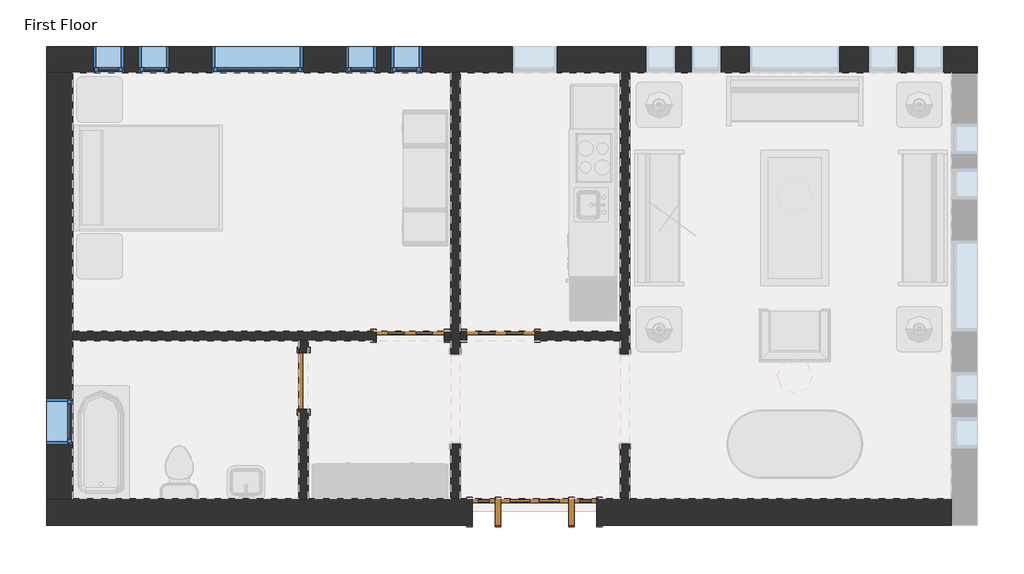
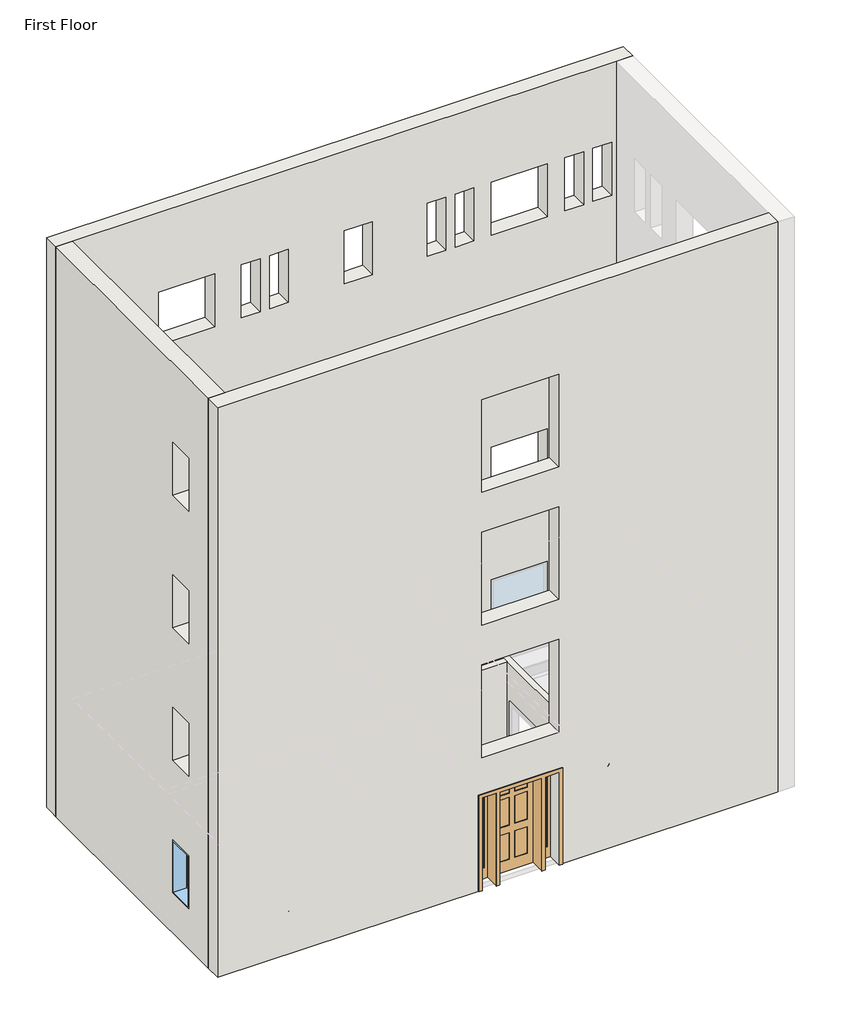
# One storey, part 1 of 2: 8 walls, 6 windows, 4 doors.
"""IFC4 building model written with IfcOpenShell, lengths in millimetres."""

from ifc_helpers import new_model, si_unit, frame, origin, place, context, project, spatial, polyline, outline, extrude, faceted_brep, transform, mapped, element, save
from components import door_829da954, door_2e3b4da2, door_4d6c7550, door_dba5aa2e, window_da97879f, window_d61ef850, window_60baf983, window_6eb97611

model = new_model("IFC4")

# Units and contexts
model_context = context("Model", 3, world=origin())
ifc_project = project(units=[si_unit("LENGTHUNIT", "METRE", prefix="MILLI")], contexts=[model_context])

# Site, building, storey
site = spatial("IfcSite", under=ifc_project)
building = spatial("IfcBuilding", under=site)
storey = spatial("IfcBuildingStorey", under=building, Name="First Floor", Elevation=0.0)

# Doors
placement = place(None, origin())
door_shape = door_829da954(model_context)
element("IfcDoor", 1, ObjectType="Single-Decorative 2 : 36\" x 84\"", at=placement, inside=storey, context=model_context, shape_type="MappedRepresentation", body=[
    mapped(door_shape, transform((-5449.8589563, 6723.5441867, 0.0), x_axis=(-1.0, 0.0, 0.0), y_axis=(0.0, -1.0, 0.0), z_axis=(0.0, 0.0, 1.0))),
])
door_2_shape = door_2e3b4da2(model_context)
element("IfcDoor", 2, ObjectType="Single-Decorative 2 : 36\" x 84\"", at=placement, inside=storey, context=model_context, shape_type="MappedRepresentation", body=[
    mapped(door_2_shape, transform((-6669.0589563, 6723.5441867, 0.0), x_axis=(1.0, 0.0, 0.0), y_axis=(0.0, 1.0, 0.0), z_axis=(0.0, 0.0, 1.0))),
])
door_3_shape = door_4d6c7550(model_context)
element("IfcDoor", 3, ObjectType="Single-Flush : 30\" x 84\"", at=placement, inside=storey, context=model_context, shape_type="MappedRepresentation", body=[
    mapped(door_3_shape, transform((-8105.7464563, 6113.9441867, 0.0), x_axis=(0.0, 1.0, 0.0), y_axis=(-1.0, 0.0, 0.0), z_axis=(0.0, 0.0, 1.0))),
])
door_4_shape = door_dba5aa2e(model_context)
element("IfcDoor", 4, ObjectType="Single-Raised Panel with Sidelights : 36\" x 84\"", at=placement, inside=storey, context=model_context, shape_type="MappedRepresentation", body=[
    mapped(door_4_shape, transform((-4992.6589563, 4350.2316867, 0.0), x_axis=(-1.0, 0.0, 0.0), y_axis=(0.0, -1.0, 0.0), z_axis=(0.0, 0.0, 1.0))),
])

# Walls
element("IfcWall", 5, ObjectType="Exterior - Brick on Mtl. Stud", at=placement, inside=storey, context=model_context, shape_type="Brep", body=[
    faceted_brep([(-11569.6714563, 10270.0191867, 13106.4), (-11217.2464563, 10270.0191867, 13106.4), (622.3285437, 10270.0191867, 13106.4), (974.7535437, 10270.0191867, 13106.4), (974.7535437, 10622.4441867, 13106.4), (-11569.6714563, 10622.4441867, 13106.4), (-11569.6714563, 10270.0191867, 0.0), (-11382.3464563, 10270.0191867, 0.0), (-11217.2464563, 10270.0191867, 0.0), (-6122.9589563, 10270.0191867, 0.0), (-5995.9589563, 10270.0191867, 0.0), (-3836.9589563, 10270.0191867, 0.0), (-3709.9589563, 10270.0191867, 0.0), (622.3285437, 10270.0191867, 0.0), (787.4285437, 10270.0191867, 0.0), (974.7535437, 10270.0191867, 0.0), (-90.4589563, 10270.0191867, 8229.6), (-90.4589563, 10270.0191867, 7010.4), (-496.8589563, 10270.0191867, 7010.4), (-496.8589563, 10270.0191867, 8229.6), (519.1410437, 10270.0191867, 8229.6), (519.1410437, 10270.0191867, 7010.4), (112.7410437, 10270.0191867, 7010.4), (112.7410437, 10270.0191867, 8229.6), (-2884.4589563, 10270.0191867, 8229.6), (-2478.0589563, 10270.0191867, 8229.6), (-2478.0589563, 10270.0191867, 7010.4), (-2884.4589563, 10270.0191867, 7010.4), (-3494.0589563, 10270.0191867, 8229.6), (-3087.6589563, 10270.0191867, 8229.6), (-3087.6589563, 10270.0191867, 7010.4), (-3494.0589563, 10270.0191867, 7010.4), (-7126.2589563, 10270.0191867, 8229.6), (-7126.2589563, 10270.0191867, 7010.4), (-7532.6589563, 10270.0191867, 7010.4), (-7532.6589563, 10270.0191867, 8229.6), (-6516.6589563, 10270.0191867, 8229.6), (-6516.6589563, 10270.0191867, 7010.4), (-6923.0589563, 10270.0191867, 7010.4), (-6923.0589563, 10270.0191867, 8229.6), (-10326.6589563, 10270.0191867, 8229.6), (-9920.2589563, 10270.0191867, 8229.6), (-9920.2589563, 10270.0191867, 7010.4), (-10326.6589563, 10270.0191867, 7010.4), (-10936.2589563, 10270.0191867, 8229.6), (-10529.8589563, 10270.0191867, 8229.6), (-10529.8589563, 10270.0191867, 7010.4), (-10936.2589563, 10270.0191867, 7010.4), (-2097.0589563, 10270.0191867, 8229.6), (-877.8589563, 10270.0191867, 8229.6), (-877.8589563, 10270.0191867, 7010.4), (-2097.0589563, 10270.0191867, 7010.4), (-9336.0589563, 10270.0191867, 8229.6), (-8116.8589563, 10270.0191867, 8229.6), (-8116.8589563, 10270.0191867, 7010.4), (-9336.0589563, 10270.0191867, 7010.4), (-5297.4589563, 10270.0191867, 8229.6), (-4687.8589563, 10270.0191867, 8229.6), (-4687.8589563, 10270.0191867, 7010.4), (-5297.4589563, 10270.0191867, 7010.4), (-90.4589563, 10270.0191867, 5181.6), (-90.4589563, 10270.0191867, 3962.4), (-496.8589563, 10270.0191867, 3962.4), (-496.8589563, 10270.0191867, 5181.6), (519.1410437, 10270.0191867, 5181.6), (519.1410437, 10270.0191867, 3962.4), (112.7410437, 10270.0191867, 3962.4), (112.7410437, 10270.0191867, 5181.6), (-2884.4589563, 10270.0191867, 5181.6), (-2478.0589563, 10270.0191867, 5181.6), (-2478.0589563, 10270.0191867, 3962.4), (-2884.4589563, 10270.0191867, 3962.4), (-3494.0589563, 10270.0191867, 5181.6), (-3087.6589563, 10270.0191867, 5181.6), (-3087.6589563, 10270.0191867, 3962.4), (-3494.0589563, 10270.0191867, 3962.4), (-7126.2589563, 10270.0191867, 5181.6), (-7126.2589563, 10270.0191867, 3962.4), (-7532.6589563, 10270.0191867, 3962.4), (-7532.6589563, 10270.0191867, 5181.6), (-6516.6589563, 10270.0191867, 5181.6), (-6516.6589563, 10270.0191867, 3962.4), (-6923.0589563, 10270.0191867, 3962.4), (-6923.0589563, 10270.0191867, 5181.6), (-10326.6589563, 10270.0191867, 5181.6), (-9920.2589563, 10270.0191867, 5181.6), (-9920.2589563, 10270.0191867, 3962.4), (-10326.6589563, 10270.0191867, 3962.4), (-10936.2589563, 10270.0191867, 5181.6), (-10529.8589563, 10270.0191867, 5181.6), (-10529.8589563, 10270.0191867, 3962.4), (-10936.2589563, 10270.0191867, 3962.4), (-2097.0589563, 10270.0191867, 5181.6), (-877.8589563, 10270.0191867, 5181.6), (-877.8589563, 10270.0191867, 3962.4), (-2097.0589563, 10270.0191867, 3962.4), (-9336.0589563, 10270.0191867, 5181.6), (-8116.8589563, 10270.0191867, 5181.6), (-8116.8589563, 10270.0191867, 3962.4), (-9336.0589563, 10270.0191867, 3962.4), (-5297.4589563, 10270.0191867, 5181.6), (-4687.8589563, 10270.0191867, 5181.6), (-4687.8589563, 10270.0191867, 3962.4), (-5297.4589563, 10270.0191867, 3962.4), (-90.4589563, 10270.0191867, 11277.6), (-90.4589563, 10270.0191867, 10058.4), (-496.8589563, 10270.0191867, 10058.4), (-496.8589563, 10270.0191867, 11277.6), (519.1410437, 10270.0191867, 11277.6), (519.1410437, 10270.0191867, 10058.4), (112.7410437, 10270.0191867, 10058.4), (112.7410437, 10270.0191867, 11277.6), (-2884.4589563, 10270.0191867, 11277.6), (-2478.0589563, 10270.0191867, 11277.6), (-2478.0589563, 10270.0191867, 10058.4), (-2884.4589563, 10270.0191867, 10058.4), (-3494.0589563, 10270.0191867, 11277.6), (-3087.6589563, 10270.0191867, 11277.6), (-3087.6589563, 10270.0191867, 10058.4), (-3494.0589563, 10270.0191867, 10058.4), (-7126.2589563, 10270.0191867, 11277.6), (-7126.2589563, 10270.0191867, 10058.4), (-7532.6589563, 10270.0191867, 10058.4), (-7532.6589563, 10270.0191867, 11277.6), (-6516.6589563, 10270.0191867, 11277.6), (-6516.6589563, 10270.0191867, 10058.4), (-6923.0589563, 10270.0191867, 10058.4), (-6923.0589563, 10270.0191867, 11277.6), (-10326.6589563, 10270.0191867, 11277.6), (-9920.2589563, 10270.0191867, 11277.6), (-9920.2589563, 10270.0191867, 10058.4), (-10326.6589563, 10270.0191867, 10058.4), (-10936.2589563, 10270.0191867, 11277.6), (-10529.8589563, 10270.0191867, 11277.6), (-10529.8589563, 10270.0191867, 10058.4), (-10936.2589563, 10270.0191867, 10058.4), (-2097.0589563, 10270.0191867, 11277.6), (-877.8589563, 10270.0191867, 11277.6), (-877.8589563, 10270.0191867, 10058.4), (-2097.0589563, 10270.0191867, 10058.4), (-9336.0589563, 10270.0191867, 11277.6), (-8116.8589563, 10270.0191867, 11277.6), (-8116.8589563, 10270.0191867, 10058.4), (-9336.0589563, 10270.0191867, 10058.4), (-5297.4589563, 10270.0191867, 11277.6), (-4687.8589563, 10270.0191867, 11277.6), (-4687.8589563, 10270.0191867, 10058.4), (-5297.4589563, 10270.0191867, 10058.4), (-90.4589563, 10270.0191867, 2133.6), (-90.4589563, 10270.0191867, 914.4), (-496.8589563, 10270.0191867, 914.4), (-496.8589563, 10270.0191867, 2133.6), (519.1410437, 10270.0191867, 2133.6), (519.1410437, 10270.0191867, 914.4), (112.7410437, 10270.0191867, 914.4), (112.7410437, 10270.0191867, 2133.6), (-2884.4589563, 10270.0191867, 2133.6), (-2478.0589563, 10270.0191867, 2133.6), (-2478.0589563, 10270.0191867, 914.4), (-2884.4589563, 10270.0191867, 914.4), (-3494.0589563, 10270.0191867, 2133.6), (-3087.6589563, 10270.0191867, 2133.6), (-3087.6589563, 10270.0191867, 914.4), (-3494.0589563, 10270.0191867, 914.4), (-7126.2589563, 10270.0191867, 2133.6), (-7126.2589563, 10270.0191867, 914.4), (-7532.6589563, 10270.0191867, 914.4), (-7532.6589563, 10270.0191867, 2133.6), (-6516.6589563, 10270.0191867, 2133.6), (-6516.6589563, 10270.0191867, 914.4), (-6923.0589563, 10270.0191867, 914.4), (-6923.0589563, 10270.0191867, 2133.6), (-10326.6589563, 10270.0191867, 2133.6), (-9920.2589563, 10270.0191867, 2133.6), (-9920.2589563, 10270.0191867, 914.4), (-10326.6589563, 10270.0191867, 914.4), (-10936.2589563, 10270.0191867, 2133.6), (-10529.8589563, 10270.0191867, 2133.6), (-10529.8589563, 10270.0191867, 914.4), (-10936.2589563, 10270.0191867, 914.4), (-2097.0589563, 10270.0191867, 2133.6), (-877.8589563, 10270.0191867, 2133.6), (-877.8589563, 10270.0191867, 914.4), (-2097.0589563, 10270.0191867, 914.4), (-9336.0589563, 10270.0191867, 2133.6), (-8116.8589563, 10270.0191867, 2133.6), (-8116.8589563, 10270.0191867, 914.4), (-9336.0589563, 10270.0191867, 914.4), (-5297.4589563, 10270.0191867, 2133.6), (-4687.8589563, 10270.0191867, 2133.6), (-4687.8589563, 10270.0191867, 914.4), (-5297.4589563, 10270.0191867, 914.4), (-11569.6714563, 10622.4441867, 0.0), (974.7535437, 10622.4441867, 0.0), (787.4285437, 10622.4441867, 0.0), (-11382.3464563, 10622.4441867, 0.0), (-90.4589563, 10622.4441867, 8229.6), (-496.8589563, 10622.4441867, 8229.6), (-496.8589563, 10622.4441867, 7010.4), (-90.4589563, 10622.4441867, 7010.4), (519.1410437, 10622.4441867, 8229.6), (112.7410437, 10622.4441867, 8229.6), (112.7410437, 10622.4441867, 7010.4), (519.1410437, 10622.4441867, 7010.4), (-2884.4589563, 10622.4441867, 8229.6), (-2884.4589563, 10622.4441867, 7010.4), (-2478.0589563, 10622.4441867, 7010.4), (-2478.0589563, 10622.4441867, 8229.6), (-3494.0589563, 10622.4441867, 8229.6), (-3494.0589563, 10622.4441867, 7010.4), (-3087.6589563, 10622.4441867, 7010.4), (-3087.6589563, 10622.4441867, 8229.6), (-7126.2589563, 10622.4441867, 8229.6), (-7532.6589563, 10622.4441867, 8229.6), (-7532.6589563, 10622.4441867, 7010.4), (-7126.2589563, 10622.4441867, 7010.4), (-6516.6589563, 10622.4441867, 8229.6), (-6923.0589563, 10622.4441867, 8229.6), (-6923.0589563, 10622.4441867, 7010.4), (-6516.6589563, 10622.4441867, 7010.4), (-10326.6589563, 10622.4441867, 8229.6), (-10326.6589563, 10622.4441867, 7010.4), (-9920.2589563, 10622.4441867, 7010.4), (-9920.2589563, 10622.4441867, 8229.6), (-10936.2589563, 10622.4441867, 8229.6), (-10936.2589563, 10622.4441867, 7010.4), (-10529.8589563, 10622.4441867, 7010.4), (-10529.8589563, 10622.4441867, 8229.6), (-2097.0589563, 10622.4441867, 8229.6), (-2097.0589563, 10622.4441867, 7010.4), (-877.8589563, 10622.4441867, 7010.4), (-877.8589563, 10622.4441867, 8229.6), (-9336.0589563, 10622.4441867, 8229.6), (-9336.0589563, 10622.4441867, 7010.4), (-8116.8589563, 10622.4441867, 7010.4), (-8116.8589563, 10622.4441867, 8229.6), (-5297.4589563, 10622.4441867, 8229.6), (-5297.4589563, 10622.4441867, 7010.4), (-4687.8589563, 10622.4441867, 7010.4), (-4687.8589563, 10622.4441867, 8229.6), (-90.4589563, 10622.4441867, 5181.6), (-496.8589563, 10622.4441867, 5181.6), (-496.8589563, 10622.4441867, 3962.4), (-90.4589563, 10622.4441867, 3962.4), (519.1410437, 10622.4441867, 5181.6), (112.7410437, 10622.4441867, 5181.6), (112.7410437, 10622.4441867, 3962.4), (519.1410437, 10622.4441867, 3962.4), (-2884.4589563, 10622.4441867, 5181.6), (-2884.4589563, 10622.4441867, 3962.4), (-2478.0589563, 10622.4441867, 3962.4), (-2478.0589563, 10622.4441867, 5181.6), (-3494.0589563, 10622.4441867, 5181.6), (-3494.0589563, 10622.4441867, 3962.4), (-3087.6589563, 10622.4441867, 3962.4), (-3087.6589563, 10622.4441867, 5181.6), (-7126.2589563, 10622.4441867, 5181.6), (-7532.6589563, 10622.4441867, 5181.6), (-7532.6589563, 10622.4441867, 3962.4), (-7126.2589563, 10622.4441867, 3962.4), (-6516.6589563, 10622.4441867, 5181.6), (-6923.0589563, 10622.4441867, 5181.6), (-6923.0589563, 10622.4441867, 3962.4), (-6516.6589563, 10622.4441867, 3962.4), (-10326.6589563, 10622.4441867, 5181.6), (-10326.6589563, 10622.4441867, 3962.4), (-9920.2589563, 10622.4441867, 3962.4), (-9920.2589563, 10622.4441867, 5181.6), (-10936.2589563, 10622.4441867, 5181.6), (-10936.2589563, 10622.4441867, 3962.4), (-10529.8589563, 10622.4441867, 3962.4), (-10529.8589563, 10622.4441867, 5181.6), (-2097.0589563, 10622.4441867, 5181.6), (-2097.0589563, 10622.4441867, 3962.4), (-877.8589563, 10622.4441867, 3962.4), (-877.8589563, 10622.4441867, 5181.6), (-9336.0589563, 10622.4441867, 5181.6), (-9336.0589563, 10622.4441867, 3962.4), (-8116.8589563, 10622.4441867, 3962.4), (-8116.8589563, 10622.4441867, 5181.6), (-5297.4589563, 10622.4441867, 5181.6), (-5297.4589563, 10622.4441867, 3962.4), (-4687.8589563, 10622.4441867, 3962.4), (-4687.8589563, 10622.4441867, 5181.6), (-90.4589563, 10622.4441867, 11277.6), (-496.8589563, 10622.4441867, 11277.6), (-496.8589563, 10622.4441867, 10058.4), (-90.4589563, 10622.4441867, 10058.4), (519.1410437, 10622.4441867, 11277.6), (112.7410437, 10622.4441867, 11277.6), (112.7410437, 10622.4441867, 10058.4), (519.1410437, 10622.4441867, 10058.4), (-2884.4589563, 10622.4441867, 11277.6), (-2884.4589563, 10622.4441867, 10058.4), (-2478.0589563, 10622.4441867, 10058.4), (-2478.0589563, 10622.4441867, 11277.6), (-3494.0589563, 10622.4441867, 11277.6), (-3494.0589563, 10622.4441867, 10058.4), (-3087.6589563, 10622.4441867, 10058.4), (-3087.6589563, 10622.4441867, 11277.6), (-7126.2589563, 10622.4441867, 11277.6), (-7532.6589563, 10622.4441867, 11277.6), (-7532.6589563, 10622.4441867, 10058.4), (-7126.2589563, 10622.4441867, 10058.4), (-6516.6589563, 10622.4441867, 11277.6), (-6923.0589563, 10622.4441867, 11277.6), (-6923.0589563, 10622.4441867, 10058.4), (-6516.6589563, 10622.4441867, 10058.4), (-10326.6589563, 10622.4441867, 11277.6), (-10326.6589563, 10622.4441867, 10058.4), (-9920.2589563, 10622.4441867, 10058.4), (-9920.2589563, 10622.4441867, 11277.6), (-10936.2589563, 10622.4441867, 11277.6), (-10936.2589563, 10622.4441867, 10058.4), (-10529.8589563, 10622.4441867, 10058.4), (-10529.8589563, 10622.4441867, 11277.6), (-2097.0589563, 10622.4441867, 11277.6), (-2097.0589563, 10622.4441867, 10058.4), (-877.8589563, 10622.4441867, 10058.4), (-877.8589563, 10622.4441867, 11277.6), (-9336.0589563, 10622.4441867, 11277.6), (-9336.0589563, 10622.4441867, 10058.4), (-8116.8589563, 10622.4441867, 10058.4), (-8116.8589563, 10622.4441867, 11277.6), (-5297.4589563, 10622.4441867, 11277.6), (-5297.4589563, 10622.4441867, 10058.4), (-4687.8589563, 10622.4441867, 10058.4), (-4687.8589563, 10622.4441867, 11277.6), (-90.4589563, 10622.4441867, 2133.6), (-496.8589563, 10622.4441867, 2133.6), (-496.8589563, 10622.4441867, 914.4), (-90.4589563, 10622.4441867, 914.4), (519.1410437, 10622.4441867, 2133.6), (112.7410437, 10622.4441867, 2133.6), (112.7410437, 10622.4441867, 914.4), (519.1410437, 10622.4441867, 914.4), (-2884.4589563, 10622.4441867, 2133.6), (-2884.4589563, 10622.4441867, 914.4), (-2478.0589563, 10622.4441867, 914.4), (-2478.0589563, 10622.4441867, 2133.6), (-3494.0589563, 10622.4441867, 2133.6), (-3494.0589563, 10622.4441867, 914.4), (-3087.6589563, 10622.4441867, 914.4), (-3087.6589563, 10622.4441867, 2133.6), (-7126.2589563, 10622.4441867, 2133.6), (-7532.6589563, 10622.4441867, 2133.6), (-7532.6589563, 10622.4441867, 914.4), (-7126.2589563, 10622.4441867, 914.4), (-6516.6589563, 10622.4441867, 2133.6), (-6923.0589563, 10622.4441867, 2133.6), (-6923.0589563, 10622.4441867, 914.4), (-6516.6589563, 10622.4441867, 914.4), (-10326.6589563, 10622.4441867, 2133.6), (-10326.6589563, 10622.4441867, 914.4), (-9920.2589563, 10622.4441867, 914.4), (-9920.2589563, 10622.4441867, 2133.6), (-10936.2589563, 10622.4441867, 2133.6), (-10936.2589563, 10622.4441867, 914.4), (-10529.8589563, 10622.4441867, 914.4), (-10529.8589563, 10622.4441867, 2133.6), (-2097.0589563, 10622.4441867, 2133.6), (-2097.0589563, 10622.4441867, 914.4), (-877.8589563, 10622.4441867, 914.4), (-877.8589563, 10622.4441867, 2133.6), (-9336.0589563, 10622.4441867, 2133.6), (-9336.0589563, 10622.4441867, 914.4), (-8116.8589563, 10622.4441867, 914.4), (-8116.8589563, 10622.4441867, 2133.6), (-5297.4589563, 10622.4441867, 2133.6), (-5297.4589563, 10622.4441867, 914.4), (-4687.8589563, 10622.4441867, 914.4), (-4687.8589563, 10622.4441867, 2133.6), (974.7535437, 10435.1191867, 0.0), (-11569.6714563, 10435.1191867, 0.0), (-11382.3464563, 10435.1191867, 0.0), (787.4285437, 10435.1191867, 0.0)], [[[0, 1, 2, 3, 4, 5]], [[6, 7, 8, 9, 10, 11, 12, 13, 14, 15, 3, 2, 1, 0], [16, 17, 18, 19], [20, 21, 22, 23], [24, 25, 26, 27], [28, 29, 30, 31], [32, 33, 34, 35], [36, 37, 38, 39], [40, 41, 42, 43], [44, 45, 46, 47], [48, 49, 50, 51], [52, 53, 54, 55], [56, 57, 58, 59], [60, 61, 62, 63], [64, 65, 66, 67], [68, 69, 70, 71], [72, 73, 74, 75], [76, 77, 78, 79], [80, 81, 82, 83], [84, 85, 86, 87], [88, 89, 90, 91], [92, 93, 94, 95], [96, 97, 98, 99], [100, 101, 102, 103], [104, 105, 106, 107], [108, 109, 110, 111], [112, 113, 114, 115], [116, 117, 118, 119], [120, 121, 122, 123], [124, 125, 126, 127], [128, 129, 130, 131], [132, 133, 134, 135], [136, 137, 138, 139], [140, 141, 142, 143], [144, 145, 146, 147], [148, 149, 150, 151], [152, 153, 154, 155], [156, 157, 158, 159], [160, 161, 162, 163], [164, 165, 166, 167], [168, 169, 170, 171], [172, 173, 174, 175], [176, 177, 178, 179], [180, 181, 182, 183], [184, 185, 186, 187], [188, 189, 190, 191]], [[192, 5, 4, 193, 194, 195], [196, 197, 198, 199], [200, 201, 202, 203], [204, 205, 206, 207], [208, 209, 210, 211], [212, 213, 214, 215], [216, 217, 218, 219], [220, 221, 222, 223], [224, 225, 226, 227], [228, 229, 230, 231], [232, 233, 234, 235], [236, 237, 238, 239], [240, 241, 242, 243], [244, 245, 246, 247], [248, 249, 250, 251], [252, 253, 254, 255], [256, 257, 258, 259], [260, 261, 262, 263], [264, 265, 266, 267], [268, 269, 270, 271], [272, 273, 274, 275], [276, 277, 278, 279], [280, 281, 282, 283], [284, 285, 286, 287], [288, 289, 290, 291], [292, 293, 294, 295], [296, 297, 298, 299], [300, 301, 302, 303], [304, 305, 306, 307], [308, 309, 310, 311], [312, 313, 314, 315], [316, 317, 318, 319], [320, 321, 322, 323], [324, 325, 326, 327], [328, 329, 330, 331], [332, 333, 334, 335], [336, 337, 338, 339], [340, 341, 342, 343], [344, 345, 346, 347], [348, 349, 350, 351], [352, 353, 354, 355], [356, 357, 358, 359], [360, 361, 362, 363], [364, 365, 366, 367], [368, 369, 370, 371]], [[3, 15, 372, 193, 4]], [[6, 0, 5, 192, 373]], [[7, 6, 373, 374]], [[373, 192, 195, 374]], [[15, 14, 375, 372]], [[195, 194, 375, 374]], [[194, 193, 372, 375]], [[14, 13, 12, 11, 10, 9, 8, 7, 374, 375]], [[17, 16, 196, 199]], [[18, 17, 199, 198]], [[19, 18, 198, 197]], [[16, 19, 197, 196]], [[21, 20, 200, 203]], [[22, 21, 203, 202]], [[23, 22, 202, 201]], [[20, 23, 201, 200]], [[205, 204, 24, 27]], [[206, 205, 27, 26]], [[207, 206, 26, 25]], [[204, 207, 25, 24]], [[209, 208, 28, 31]], [[210, 209, 31, 30]], [[211, 210, 30, 29]], [[208, 211, 29, 28]], [[33, 32, 212, 215]], [[34, 33, 215, 214]], [[35, 34, 214, 213]], [[32, 35, 213, 212]], [[37, 36, 216, 219]], [[38, 37, 219, 218]], [[39, 38, 218, 217]], [[36, 39, 217, 216]], [[221, 220, 40, 43]], [[222, 221, 43, 42]], [[223, 222, 42, 41]], [[220, 223, 41, 40]], [[225, 224, 44, 47]], [[226, 225, 47, 46]], [[227, 226, 46, 45]], [[224, 227, 45, 44]], [[229, 228, 48, 51]], [[230, 229, 51, 50]], [[231, 230, 50, 49]], [[228, 231, 49, 48]], [[233, 232, 52, 55]], [[234, 233, 55, 54]], [[235, 234, 54, 53]], [[232, 235, 53, 52]], [[237, 236, 56, 59]], [[238, 237, 59, 58]], [[239, 238, 58, 57]], [[236, 239, 57, 56]], [[61, 60, 240, 243]], [[62, 61, 243, 242]], [[63, 62, 242, 241]], [[60, 63, 241, 240]], [[65, 64, 244, 247]], [[66, 65, 247, 246]], [[67, 66, 246, 245]], [[64, 67, 245, 244]], [[249, 248, 68, 71]], [[250, 249, 71, 70]], [[251, 250, 70, 69]], [[248, 251, 69, 68]], [[253, 252, 72, 75]], [[254, 253, 75, 74]], [[255, 254, 74, 73]], [[252, 255, 73, 72]], [[77, 76, 256, 259]], [[78, 77, 259, 258]], [[79, 78, 258, 257]], [[76, 79, 257, 256]], [[81, 80, 260, 263]], [[82, 81, 263, 262]], [[83, 82, 262, 261]], [[80, 83, 261, 260]], [[265, 264, 84, 87]], [[266, 265, 87, 86]], [[267, 266, 86, 85]], [[264, 267, 85, 84]], [[269, 268, 88, 91]], [[270, 269, 91, 90]], [[271, 270, 90, 89]], [[268, 271, 89, 88]], [[273, 272, 92, 95]], [[274, 273, 95, 94]], [[275, 274, 94, 93]], [[272, 275, 93, 92]], [[277, 276, 96, 99]], [[278, 277, 99, 98]], [[279, 278, 98, 97]], [[276, 279, 97, 96]], [[281, 280, 100, 103]], [[282, 281, 103, 102]], [[283, 282, 102, 101]], [[280, 283, 101, 100]], [[105, 104, 284, 287]], [[106, 105, 287, 286]], [[107, 106, 286, 285]], [[104, 107, 285, 284]], [[109, 108, 288, 291]], [[110, 109, 291, 290]], [[111, 110, 290, 289]], [[108, 111, 289, 288]], [[293, 292, 112, 115]], [[294, 293, 115, 114]], [[295, 294, 114, 113]], [[292, 295, 113, 112]], [[297, 296, 116, 119]], [[298, 297, 119, 118]], [[299, 298, 118, 117]], [[296, 299, 117, 116]], [[121, 120, 300, 303]], [[122, 121, 303, 302]], [[123, 122, 302, 301]], [[120, 123, 301, 300]], [[125, 124, 304, 307]], [[126, 125, 307, 306]], [[127, 126, 306, 305]], [[124, 127, 305, 304]], [[309, 308, 128, 131]], [[310, 309, 131, 130]], [[311, 310, 130, 129]], [[308, 311, 129, 128]], [[313, 312, 132, 135]], [[314, 313, 135, 134]], [[315, 314, 134, 133]], [[312, 315, 133, 132]], [[317, 316, 136, 139]], [[318, 317, 139, 138]], [[319, 318, 138, 137]], [[316, 319, 137, 136]], [[321, 320, 140, 143]], [[322, 321, 143, 142]], [[323, 322, 142, 141]], [[320, 323, 141, 140]], [[325, 324, 144, 147]], [[326, 325, 147, 146]], [[327, 326, 146, 145]], [[324, 327, 145, 144]], [[149, 148, 328, 331]], [[150, 149, 331, 330]], [[151, 150, 330, 329]], [[148, 151, 329, 328]], [[153, 152, 332, 335]], [[154, 153, 335, 334]], [[155, 154, 334, 333]], [[152, 155, 333, 332]], [[337, 336, 156, 159]], [[338, 337, 159, 158]], [[339, 338, 158, 157]], [[336, 339, 157, 156]], [[341, 340, 160, 163]], [[342, 341, 163, 162]], [[343, 342, 162, 161]], [[340, 343, 161, 160]], [[165, 164, 344, 347]], [[166, 165, 347, 346]], [[167, 166, 346, 345]], [[164, 167, 345, 344]], [[169, 168, 348, 351]], [[170, 169, 351, 350]], [[171, 170, 350, 349]], [[168, 171, 349, 348]], [[353, 352, 172, 175]], [[354, 353, 175, 174]], [[355, 354, 174, 173]], [[352, 355, 173, 172]], [[357, 356, 176, 179]], [[358, 357, 179, 178]], [[359, 358, 178, 177]], [[356, 359, 177, 176]], [[361, 360, 180, 183]], [[362, 361, 183, 182]], [[363, 362, 182, 181]], [[360, 363, 181, 180]], [[365, 364, 184, 187]], [[366, 365, 187, 186]], [[367, 366, 186, 185]], [[364, 367, 185, 184]], [[369, 368, 188, 191]], [[370, 369, 191, 190]], [[371, 370, 190, 189]], [[368, 371, 189, 188]]]),
])
element("IfcWall", 6, ObjectType="Exterior - Brick on Mtl. Stud", at=placement, inside=storey, context=model_context, shape_type="Brep", body=[
    faceted_brep([(-11569.6714563, 4526.4441867, 0.0), (-11217.2464563, 4526.4441867, 0.0), (-8169.2464563, 4526.4441867, 0.0), (-8042.2464563, 4526.4441867, 0.0), (-6122.9589563, 4526.4441867, 0.0), (-5995.9589563, 4526.4441867, 0.0), (-5830.8589563, 4526.4441867, 0.0), (-5830.8589563, 4174.0191867, 0.0), (-11569.6714563, 4174.0191867, 0.0), (-4154.4589563, 4526.4441867, 0.0), (-3836.9589563, 4526.4441867, 0.0), (-3709.9589563, 4526.4441867, 0.0), (622.3285437, 4526.4441867, 0.0), (622.3285437, 4174.0191867, 0.0), (-4154.4589563, 4174.0191867, 0.0), (622.3285437, 4526.4441867, 13106.4), (-11217.2464563, 4526.4441867, 13106.4), (-11569.6714563, 4526.4441867, 13106.4), (-11569.6714563, 4174.0191867, 13106.4), (622.3285437, 4174.0191867, 13106.4), (-5830.8589563, 4526.4441867, 2133.6), (-4154.4589563, 4526.4441867, 2133.6), (-4154.4589563, 4526.4441867, 6096.0), (-4154.4589563, 4526.4441867, 8229.6), (-5830.8589563, 4526.4441867, 8229.6), (-5830.8589563, 4526.4441867, 6096.0), (-4154.4589563, 4526.4441867, 3048.0), (-4154.4589563, 4526.4441867, 5181.6), (-5830.8589563, 4526.4441867, 5181.6), (-5830.8589563, 4526.4441867, 3048.0), (-4154.4589563, 4526.4441867, 9144.0), (-4154.4589563, 4526.4441867, 11277.6), (-5830.8589563, 4526.4441867, 11277.6), (-5830.8589563, 4526.4441867, 9144.0), (-5830.8589563, 4174.0191867, 2133.6), (-4154.4589563, 4174.0191867, 2133.6), (-4154.4589563, 4174.0191867, 6096.0), (-5830.8589563, 4174.0191867, 6096.0), (-5830.8589563, 4174.0191867, 8229.6), (-4154.4589563, 4174.0191867, 8229.6), (-4154.4589563, 4174.0191867, 3048.0), (-5830.8589563, 4174.0191867, 3048.0), (-5830.8589563, 4174.0191867, 5181.6), (-4154.4589563, 4174.0191867, 5181.6), (-4154.4589563, 4174.0191867, 9144.0), (-5830.8589563, 4174.0191867, 9144.0), (-5830.8589563, 4174.0191867, 11277.6), (-4154.4589563, 4174.0191867, 11277.6)], [[[0, 1, 2, 3, 4, 5, 6, 7, 8]], [[9, 10, 11, 12, 13, 14]], [[15, 16, 17, 18, 19]], [[20, 6, 5, 4, 3, 2, 1, 0, 17, 16, 15, 12, 11, 10, 9, 21], [22, 23, 24, 25], [26, 27, 28, 29], [30, 31, 32, 33]], [[8, 7, 34, 35, 14, 13, 19, 18], [36, 37, 38, 39], [40, 41, 42, 43], [44, 45, 46, 47]], [[12, 15, 19, 13]], [[17, 0, 8, 18]], [[34, 7, 6, 20]], [[35, 34, 20, 21]], [[14, 35, 21, 9]], [[37, 36, 22, 25]], [[38, 37, 25, 24]], [[39, 38, 24, 23]], [[36, 39, 23, 22]], [[41, 40, 26, 29]], [[42, 41, 29, 28]], [[43, 42, 28, 27]], [[40, 43, 27, 26]], [[45, 44, 30, 33]], [[46, 45, 33, 32]], [[47, 46, 32, 31]], [[44, 47, 31, 30]]]),
])
element("IfcWall", 7, ObjectType="Exterior - Brick on Mtl. Stud", at=placement, inside=storey, context=model_context, shape_type="Brep", body=[
    faceted_brep([(-11217.2464563, 4526.4441867, 13106.4), (-11217.2464563, 10270.0191867, 13106.4), (-11569.6714563, 10270.0191867, 13106.4), (-11569.6714563, 4526.4441867, 13106.4), (-11217.2464563, 4526.4441867, 0.0), (-11217.2464563, 6660.0441867, 0.0), (-11217.2464563, 6787.0441867, 0.0), (-11217.2464563, 10270.0191867, 0.0), (-11217.2464563, 5264.6316867, 8229.6), (-11217.2464563, 5874.2316867, 8229.6), (-11217.2464563, 5874.2316867, 7010.4), (-11217.2464563, 5264.6316867, 7010.4), (-11217.2464563, 5264.6316867, 5181.6), (-11217.2464563, 5874.2316867, 5181.6), (-11217.2464563, 5874.2316867, 3962.4), (-11217.2464563, 5264.6316867, 3962.4), (-11217.2464563, 5264.6316867, 11277.6), (-11217.2464563, 5874.2316867, 11277.6), (-11217.2464563, 5874.2316867, 10058.4), (-11217.2464563, 5264.6316867, 10058.4), (-11217.2464563, 5264.6316867, 2133.6), (-11217.2464563, 5874.2316867, 2133.6), (-11217.2464563, 5874.2316867, 914.4), (-11217.2464563, 5264.6316867, 914.4), (-11569.6714563, 4526.4441867, 0.0), (-11569.6714563, 10270.0191867, 0.0), (-11569.6714563, 5264.6316867, 8229.6), (-11569.6714563, 5264.6316867, 7010.4), (-11569.6714563, 5874.2316867, 7010.4), (-11569.6714563, 5874.2316867, 8229.6), (-11569.6714563, 5264.6316867, 5181.6), (-11569.6714563, 5264.6316867, 3962.4), (-11569.6714563, 5874.2316867, 3962.4), (-11569.6714563, 5874.2316867, 5181.6), (-11569.6714563, 5264.6316867, 11277.6), (-11569.6714563, 5264.6316867, 10058.4), (-11569.6714563, 5874.2316867, 10058.4), (-11569.6714563, 5874.2316867, 11277.6), (-11569.6714563, 5264.6316867, 2133.6), (-11569.6714563, 5264.6316867, 914.4), (-11569.6714563, 5874.2316867, 914.4), (-11569.6714563, 5874.2316867, 2133.6), (-11382.3464563, 4526.4441867, 0.0), (-11382.3464563, 10270.0191867, 0.0)], [[[0, 1, 2, 3]], [[4, 5, 6, 7, 1, 0], [8, 9, 10, 11], [12, 13, 14, 15], [16, 17, 18, 19], [20, 21, 22, 23]], [[24, 3, 2, 25], [26, 27, 28, 29], [30, 31, 32, 33], [34, 35, 36, 37], [38, 39, 40, 41]], [[4, 0, 3, 24, 42]], [[1, 7, 43, 25, 2]], [[42, 24, 25, 43]], [[7, 6, 5, 4, 42, 43]], [[27, 26, 8, 11]], [[28, 27, 11, 10]], [[29, 28, 10, 9]], [[26, 29, 9, 8]], [[31, 30, 12, 15]], [[32, 31, 15, 14]], [[33, 32, 14, 13]], [[30, 33, 13, 12]], [[35, 34, 16, 19]], [[36, 35, 19, 18]], [[37, 36, 18, 17]], [[34, 37, 17, 16]], [[39, 38, 20, 23]], [[40, 39, 23, 22]], [[41, 40, 22, 21]], [[38, 41, 21, 20]]]),
])
element("IfcWall", 8, ObjectType="Interior - 5\" Partition (2-hr)", at=placement, inside=storey, context=model_context, shape_type="Brep", body=[
    faceted_brep([(-3709.9589563, 10270.0191867, 0.0), (-3709.9589563, 6483.8316867, 0.0), (-3836.9589563, 6483.8316867, 0.0), (-3836.9589563, 6660.0441867, 0.0), (-3836.9589563, 6787.0441867, 0.0), (-3836.9589563, 10270.0191867, 0.0), (-3709.9589563, 5264.6316867, 0.0), (-3709.9589563, 4526.4441867, 0.0), (-3836.9589563, 4526.4441867, 0.0), (-3836.9589563, 5264.6316867, 0.0), (-3836.9589563, 10270.0191867, 3048.0), (-3836.9589563, 6787.0441867, 3048.0), (-3836.9589563, 6660.0441867, 3048.0), (-3836.9589563, 4526.4441867, 3048.0), (-3709.9589563, 4526.4441867, 3048.0), (-3709.9589563, 10270.0191867, 3048.0), (-3836.9589563, 6483.8316867, 2133.6), (-3836.9589563, 5264.6316867, 2133.6), (-3709.9589563, 6483.8316867, 2133.6), (-3709.9589563, 5264.6316867, 2133.6)], [[[0, 1, 2, 3, 4, 5]], [[6, 7, 8, 9]], [[10, 11, 12, 13, 14, 15]], [[5, 4, 3, 2, 16, 17, 9, 8, 13, 12, 11, 10]], [[18, 1, 0, 15, 14, 7, 6, 19]], [[5, 10, 15, 0]], [[13, 8, 7, 14]], [[9, 17, 19, 6]], [[16, 2, 1, 18]], [[17, 16, 18, 19]]]),
])
element("IfcWall", 9, ObjectType="Interior - 5\" Partition (2-hr)", at=placement, inside=storey, context=model_context, shape_type="Brep", body=[
    faceted_brep([(-6122.9589563, 4526.4441867, 0.0), (-6122.9589563, 5264.6316867, 0.0), (-5995.9589563, 5264.6316867, 0.0), (-5995.9589563, 4526.4441867, 0.0), (-6122.9589563, 6483.8316867, 0.0), (-6122.9589563, 6660.0441867, 0.0), (-6122.9589563, 6787.0441867, 0.0), (-6122.9589563, 10270.0191867, 0.0), (-5995.9589563, 10270.0191867, 0.0), (-5995.9589563, 6787.0441867, 0.0), (-5995.9589563, 6660.0441867, 0.0), (-5995.9589563, 6483.8316867, 0.0), (-6122.9589563, 10270.0191867, 3048.0), (-6122.9589563, 6787.0441867, 3048.0), (-6122.9589563, 6660.0441867, 3048.0), (-6122.9589563, 4526.4441867, 3048.0), (-5995.9589563, 4526.4441867, 3048.0), (-5995.9589563, 6660.0441867, 3048.0), (-5995.9589563, 6787.0441867, 3048.0), (-5995.9589563, 10270.0191867, 3048.0), (-6122.9589563, 5264.6316867, 2133.6), (-6122.9589563, 6483.8316867, 2133.6), (-5995.9589563, 5264.6316867, 2133.6), (-5995.9589563, 6483.8316867, 2133.6)], [[[0, 1, 2, 3]], [[4, 5, 6, 7, 8, 9, 10, 11]], [[12, 13, 14, 15, 16, 17, 18, 19]], [[20, 1, 0, 15, 14, 13, 12, 7, 6, 5, 4, 21]], [[3, 2, 22, 23, 11, 10, 9, 8, 19, 18, 17, 16]], [[7, 12, 19, 8]], [[15, 0, 3, 16]], [[11, 23, 21, 4]], [[22, 2, 1, 20]], [[23, 22, 20, 21]]]),
])
element("IfcWall", 10, ObjectType="Interior - 5\" Partition (2-hr)", at=placement, inside=storey, context=model_context, shape_type="Brep", body=[
    faceted_brep([(-6122.9589563, 6660.0441867, 0.0), (-6211.8589563, 6660.0441867, 0.0), (-6211.8589563, 6787.0441867, 0.0), (-6122.9589563, 6787.0441867, 0.0), (-7126.2589563, 6660.0441867, 0.0), (-8042.2464563, 6660.0441867, 0.0), (-8169.2464563, 6660.0441867, 0.0), (-11217.2464563, 6660.0441867, 0.0), (-11217.2464563, 6787.0441867, 0.0), (-7126.2589563, 6787.0441867, 0.0), (-11217.2464563, 6660.0441867, 3048.0), (-8169.2464563, 6660.0441867, 3048.0), (-8042.2464563, 6660.0441867, 3048.0), (-6122.9589563, 6660.0441867, 3048.0), (-6122.9589563, 6787.0441867, 3048.0), (-11217.2464563, 6787.0441867, 3048.0), (-6211.8589563, 6660.0441867, 2133.6), (-7126.2589563, 6660.0441867, 2133.6), (-6211.8589563, 6787.0441867, 2133.6), (-7126.2589563, 6787.0441867, 2133.6)], [[[0, 1, 2, 3]], [[4, 5, 6, 7, 8, 9]], [[10, 11, 12, 13, 14, 15]], [[16, 1, 0, 13, 12, 11, 10, 7, 6, 5, 4, 17]], [[3, 2, 18, 19, 9, 8, 15, 14]], [[7, 10, 15, 8]], [[13, 0, 3, 14]], [[18, 2, 1, 16]], [[19, 18, 16, 17]], [[9, 19, 17, 4]]]),
])
element("IfcWall", 11, ObjectType="Interior - 5\" Partition (2-hr)", at=placement, inside=storey, context=model_context, shape_type="SweptSolid", body=[
    extrude(outline(polyline([(6660.0441867, 0.0), (6494.9441867, 0.0), (6494.9441867, 2133.6), (5732.9441867, 2133.6), (5732.9441867, 0.0), (4526.4441867, 0.0), (4526.4441867, 3048.0), (6660.0441867, 3048.0), (6660.0441867, 0.0)])), frame((-8169.2464563, 0.0, 0.0), z_axis=(1.0, 0.0, 0.0), x_axis=(0.0, 1.0, 0.0)), (0.0, 0.0, 1.0), 127.0),
])
element("IfcWall", 12, ObjectType="Interior - 5\" Partition (2-hr)", at=placement, inside=storey, context=model_context, shape_type="SweptSolid", body=[
    extrude(outline(polyline([(0.0, -5995.9589563), (0.0, -5907.0589563), (2133.6, -5907.0589563), (2133.6, -4992.6589563), (0.0, -4992.6589563), (0.0, -3836.9589563), (3048.0, -3836.9589563), (3048.0, -5995.9589563), (0.0, -5995.9589563)])), frame((0.0, 6660.0441867, 0.0), z_axis=(0.0, 1.0, 0.0), x_axis=(0.0, 0.0, 1.0)), (0.0, 0.0, 1.0), 127.0),
])

# Windows
window_shape = window_da97879f(model_context)
element("IfcWindow", 13, ObjectType="Fixed : 16\" x 48\"", at=placement, inside=storey, context=model_context, shape_type="MappedRepresentation", body=[
    mapped(window_shape, transform((-10771.1589563, 10446.2316867, 0.0), x_axis=(-1.0, 0.0, 0.0), y_axis=(0.0, -1.0, 0.0), z_axis=(0.0, 0.0, 1.0))),
])
element("IfcWindow", 14, ObjectType="Fixed : 16\" x 48\"", at=placement, inside=storey, context=model_context, shape_type="MappedRepresentation", body=[
    mapped(window_shape, transform((-10161.5589563, 10446.2316867, 0.0), x_axis=(-1.0, 0.0, 0.0), y_axis=(0.0, -1.0, 0.0), z_axis=(0.0, 0.0, 1.0))),
])
window_2_shape = window_d61ef850(model_context)
element("IfcWindow", 15, ObjectType="Fixed : 16\" x 48\"", at=placement, inside=storey, context=model_context, shape_type="MappedRepresentation", body=[
    mapped(window_2_shape, transform((-6681.7589563, 10446.2316867, 0.0), x_axis=(1.0, 0.0, 0.0), y_axis=(0.0, 1.0, 0.0), z_axis=(0.0, 0.0, 1.0))),
])
element("IfcWindow", 16, ObjectType="Fixed : 16\" x 48\"", at=placement, inside=storey, context=model_context, shape_type="MappedRepresentation", body=[
    mapped(window_2_shape, transform((-7291.3589563, 10446.2316867, 0.0), x_axis=(1.0, 0.0, 0.0), y_axis=(0.0, 1.0, 0.0), z_axis=(0.0, 0.0, 1.0))),
])
window_3_shape = window_60baf983(model_context)
element("IfcWindow", 17, ObjectType="Fixed : 24\" x 48\"", at=placement, inside=storey, context=model_context, shape_type="MappedRepresentation", body=[
    mapped(window_3_shape, transform((-11393.4589563, 5531.3316867, 0.0), x_axis=(0.0, -1.0, 0.0), y_axis=(1.0, 0.0, 0.0), z_axis=(0.0, 0.0, 1.0))),
])
window_4_shape = window_6eb97611(model_context)
element("IfcWindow", 18, ObjectType="Fixed : 48\" x 48\"", at=placement, inside=storey, context=model_context, shape_type="MappedRepresentation", body=[
    mapped(window_4_shape, transform((-8764.5589563, 10446.2316867, 0.0), x_axis=(-1.0, 0.0, 0.0), y_axis=(0.0, -1.0, 0.0), z_axis=(0.0, 0.0, 1.0))),
])

save(model, "model.ifc")
